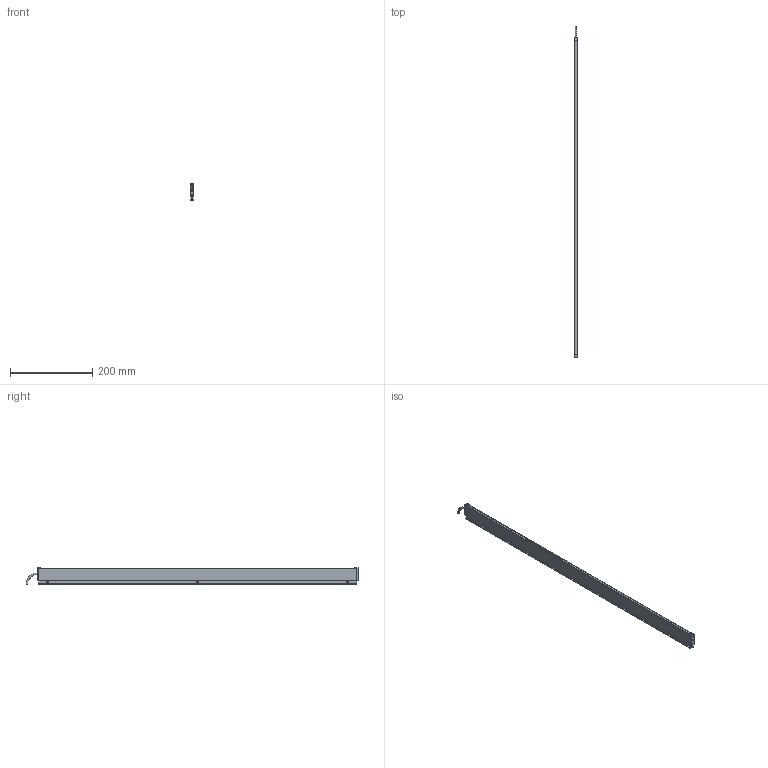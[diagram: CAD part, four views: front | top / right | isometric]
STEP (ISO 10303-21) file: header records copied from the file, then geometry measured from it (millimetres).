
FILE_DESCRIPTION (( 'STEP AP214' ), '1' );
FILE_NAME ('ILG-L-K1-0780mm.STEP', '2017-07-11T07:07:51', ( '' ), ( '' ), 'SwSTEP 2.0', 'SolidWorks 2016', '' );
FILE_SCHEMA (( 'AUTOMOTIVE_DESIGN' ));
Length unit declared in the file: millimetre
Products named in the file (1): ILG-L-K1-0780mm
Bounding box: 9 x 808.25 x 40.71 mm (x, y, z)
Volume: 111859 mm3; surface area: 155169 mm2
Topology: 9 solids, 9 shells, 430 faces, 1108 edges, 698 vertices
Faces by surface type: plane 205, cylinder 151, cone 64, torus 10
Entity records: 17910 total; most frequent: CARTESIAN_POINT 2385, DIRECTION 2328, ORIENTED_EDGE 2200, EDGE_CURVE 1100, AXIS2_PLACEMENT_3D 849, VERTEX_POINT 698, VECTOR 630, LINE 630
